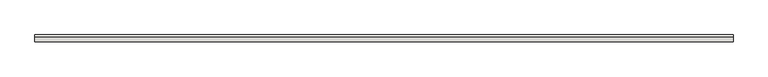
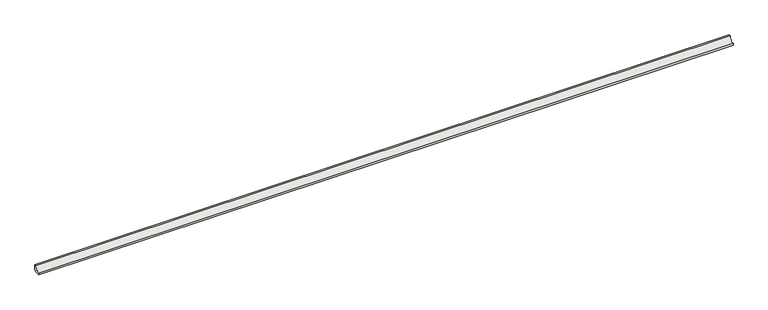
"""IFC4 building model written with IfcOpenShell, lengths in millimetres: slab geometry, ROSA GRES_188 : Pieza 188_Serena_Ocra_Anti-Slip."""

from ifc_helpers import new_model, si_unit, point, frame, frame_2d, origin, place, context, project, spatial, polyline, circle_curve, trimmed, segment, composite_curve, outline, extrude, source, transform, mapped, element, save


def slab_3dd24156(model_context):
    return source(origin(), model_context, "Body", "SweptSolid", [
        extrude(outline(composite_curve([segment(polyline([(0.0, 8.7114978), (-8.7114978, 0.0), (-40.0, 0.0), (-40.0, 9.9734114)]), True, "CONTINUOUS"), segment(trimmed(circle_curve(frame_2d((-39.9955547, 39.9955547)), 30.0221435), [point((-40.0, 9.9734114))], [point((-9.9734114, 40.0))], True, "CARTESIAN"), True, "CONTINUOUS"), segment(polyline([(-9.9734114, 40.0), (0.0, 40.0), (0.0, 8.7114978)]), True, "CONTINUOUS")], self_intersect=False)), frame((0.0, 0.0, 0.0), z_axis=(1.0, 0.0, 0.0), x_axis=(0.0, 1.0, 0.0)), (0.0, 0.0, 1.0), 4160.5984114),
    ])


if __name__ == "__main__":
    model = new_model("IFC4")
    model_context = context("Model", 3, world=origin())
    ifc_project = project(units=[si_unit("LENGTHUNIT", "METRE", prefix="MILLI")], contexts=[model_context])
    site = spatial("IfcSite", under=ifc_project)
    building = spatial("IfcBuilding", under=site)
    placement = place(None, origin())
    slab_shape = slab_3dd24156(model_context)
    element("IfcSlab", 1, ObjectType="ROSA GRES_188 : Pieza 188_Serena_Ocra_Anti-Slip", at=placement, inside=building, context=model_context, shape_type="MappedRepresentation", body=[
        mapped(slab_shape, transform((0.0, 0.0, 0.0), x_axis=(1.0, 0.0, 0.0), y_axis=(0.0, 1.0, 0.0), z_axis=(0.0, 0.0, 1.0))),
    ])
    save(model, "model.ifc")
